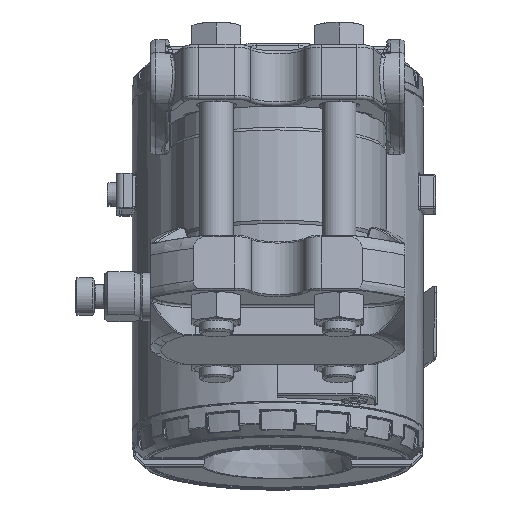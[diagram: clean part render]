
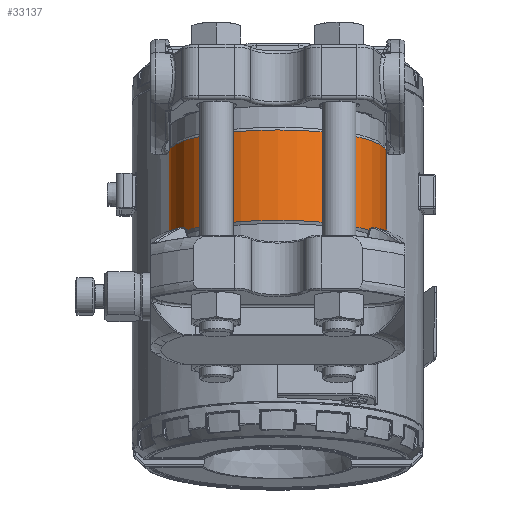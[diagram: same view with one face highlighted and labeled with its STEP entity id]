
A CAD part, left-side view. The second image highlights one B-rep face of the part: STEP entity #33137.
In plain terms, the highlighted cylindrical face has radius 31 mm (diameter 62 mm), a full revolution.
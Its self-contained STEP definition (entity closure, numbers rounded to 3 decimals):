
#523=B_SPLINE_CURVE_WITH_KNOTS('',3,(#51048,#51049,#51050,#51051,#51052,
#51053),.UNSPECIFIED.,.F.,.F.,(4,1,1,4),(0.,0.548,0.913,
1.279),.UNSPECIFIED.);
#524=B_SPLINE_CURVE_WITH_KNOTS('',3,(#51097,#51098,#51099,#51100,#51101,
#51102,#51103),.UNSPECIFIED.,.F.,.F.,(4,1,1,1,4),(0.,0.274,
0.548,0.913,1.279),.UNSPECIFIED.);
#525=B_SPLINE_CURVE_WITH_KNOTS('',3,(#51140,#51141,#51142,#51143,#51144,
#51145),.UNSPECIFIED.,.F.,.F.,(4,1,1,4),(0.,0.548,0.913,
1.279),.UNSPECIFIED.);
#526=B_SPLINE_CURVE_WITH_KNOTS('',3,(#51187,#51188,#51189,#51190,#51191,
#51192,#51193),.UNSPECIFIED.,.F.,.F.,(4,1,1,1,4),(0.,
0.274,0.548,0.913,1.279),
 .UNSPECIFIED.);
#3253=CYLINDRICAL_SURFACE('',#35922,31.);
#3829=FACE_OUTER_BOUND('',#6063,.T.);
#6063=EDGE_LOOP('',(#22276,#22277,#22278,#22279,#22280,#22281,#22282,#22283,
#22284,#22285,#22286,#22287,#22288,#22289,#22290,#22291,#22292,#22293));
#8372=LINE('',#51015,#9616);
#8373=LINE('',#51107,#9617);
#8374=LINE('',#51195,#9618);
#8375=LINE('',#51196,#9619);
#9616=VECTOR('',#40580,10.);
#9617=VECTOR('',#40597,10.);
#9618=VECTOR('',#40610,31.);
#9619=VECTOR('',#40611,31.);
#10819=CIRCLE('',#35776,31.);
#10820=CIRCLE('',#35777,31.);
#10825=CIRCLE('',#35784,31.);
#10826=CIRCLE('',#35785,31.);
#10899=CIRCLE('',#35912,31.);
#10900=CIRCLE('',#35913,31.);
#10905=CIRCLE('',#35920,31.);
#10906=CIRCLE('',#35921,31.);
#13484=VERTEX_POINT('',#50499);
#13485=VERTEX_POINT('',#50500);
#13491=VERTEX_POINT('',#50516);
#13492=VERTEX_POINT('',#50518);
#13571=VERTEX_POINT('',#51011);
#13572=VERTEX_POINT('',#51013);
#13573=VERTEX_POINT('',#51046);
#13574=VERTEX_POINT('',#51055);
#13575=VERTEX_POINT('',#51057);
#13576=VERTEX_POINT('',#51095);
#13577=VERTEX_POINT('',#51105);
#13578=VERTEX_POINT('',#51138);
#13579=VERTEX_POINT('',#51147);
#13580=VERTEX_POINT('',#51149);
#16681=EDGE_CURVE('',#13484,#13485,#10819,.T.);
#16682=EDGE_CURVE('',#13485,#13484,#10820,.T.);
#16690=EDGE_CURVE('',#13492,#13491,#10825,.T.);
#16691=EDGE_CURVE('',#13491,#13492,#10826,.T.);
#16816=EDGE_CURVE('',#13572,#13571,#8372,.T.);
#16818=EDGE_CURVE('',#13573,#13572,#523,.T.);
#16820=EDGE_CURVE('',#13574,#13575,#10899,.T.);
#16821=EDGE_CURVE('',#13575,#13573,#10900,.T.);
#16823=EDGE_CURVE('',#13576,#13574,#524,.T.);
#16825=EDGE_CURVE('',#13577,#13576,#8373,.T.);
#16827=EDGE_CURVE('',#13578,#13577,#525,.T.);
#16829=EDGE_CURVE('',#13579,#13580,#10905,.T.);
#16830=EDGE_CURVE('',#13580,#13578,#10906,.T.);
#16831=EDGE_CURVE('',#13571,#13579,#526,.T.);
#16832=EDGE_CURVE('',#13492,#13580,#8374,.T.);
#16833=EDGE_CURVE('',#13575,#13484,#8375,.T.);
#22276=ORIENTED_EDGE('',*,*,#16690,.T.);
#22277=ORIENTED_EDGE('',*,*,#16691,.T.);
#22278=ORIENTED_EDGE('',*,*,#16832,.T.);
#22279=ORIENTED_EDGE('',*,*,#16829,.F.);
#22280=ORIENTED_EDGE('',*,*,#16831,.F.);
#22281=ORIENTED_EDGE('',*,*,#16816,.F.);
#22282=ORIENTED_EDGE('',*,*,#16818,.F.);
#22283=ORIENTED_EDGE('',*,*,#16821,.F.);
#22284=ORIENTED_EDGE('',*,*,#16833,.T.);
#22285=ORIENTED_EDGE('',*,*,#16681,.T.);
#22286=ORIENTED_EDGE('',*,*,#16682,.T.);
#22287=ORIENTED_EDGE('',*,*,#16833,.F.);
#22288=ORIENTED_EDGE('',*,*,#16820,.F.);
#22289=ORIENTED_EDGE('',*,*,#16823,.F.);
#22290=ORIENTED_EDGE('',*,*,#16825,.F.);
#22291=ORIENTED_EDGE('',*,*,#16827,.F.);
#22292=ORIENTED_EDGE('',*,*,#16830,.F.);
#22293=ORIENTED_EDGE('',*,*,#16832,.F.);
#33137=ADVANCED_FACE('',(#3829),#3253,.T.);
#35776=AXIS2_PLACEMENT_3D('',#50501,#40273,#40274);
#35777=AXIS2_PLACEMENT_3D('',#50502,#40275,#40276);
#35784=AXIS2_PLACEMENT_3D('',#50519,#40292,#40293);
#35785=AXIS2_PLACEMENT_3D('',#50520,#40294,#40295);
#35912=AXIS2_PLACEMENT_3D('',#51058,#40587,#40588);
#35913=AXIS2_PLACEMENT_3D('',#51059,#40589,#40590);
#35920=AXIS2_PLACEMENT_3D('',#51150,#40604,#40605);
#35921=AXIS2_PLACEMENT_3D('',#51151,#40606,#40607);
#35922=AXIS2_PLACEMENT_3D('',#51194,#40608,#40609);
#40273=DIRECTION('center_axis',(0.,0.,1.));
#40274=DIRECTION('ref_axis',(-1.,0.,0.));
#40275=DIRECTION('center_axis',(0.,0.,1.));
#40276=DIRECTION('ref_axis',(-1.,0.,0.));
#40292=DIRECTION('center_axis',(0.,0.,-1.));
#40293=DIRECTION('ref_axis',(-1.,0.,0.));
#40294=DIRECTION('center_axis',(0.,0.,-1.));
#40295=DIRECTION('ref_axis',(-1.,0.,0.));
#40580=DIRECTION('',(0.,0.,1.));
#40587=DIRECTION('center_axis',(0.,0.,1.));
#40588=DIRECTION('ref_axis',(1.,0.,0.));
#40589=DIRECTION('center_axis',(0.,0.,1.));
#40590=DIRECTION('ref_axis',(1.,0.,0.));
#40597=DIRECTION('',(0.,0.,-1.));
#40604=DIRECTION('center_axis',(0.,0.,-1.));
#40605=DIRECTION('ref_axis',(1.,0.,0.));
#40606=DIRECTION('center_axis',(0.,0.,-1.));
#40607=DIRECTION('ref_axis',(1.,0.,0.));
#40608=DIRECTION('center_axis',(0.,0.,1.));
#40609=DIRECTION('ref_axis',(-1.,0.,0.));
#40610=DIRECTION('',(0.,0.,-1.));
#40611=DIRECTION('',(0.,0.,-1.));
#50499=CARTESIAN_POINT('',(31.,0.,-13.134));
#50500=CARTESIAN_POINT('',(-31.,0.,-13.134));
#50501=CARTESIAN_POINT('Origin',(0.,0.,-13.134));
#50502=CARTESIAN_POINT('Origin',(0.,0.,-13.134));
#50516=CARTESIAN_POINT('',(-31.,0.,13.134));
#50518=CARTESIAN_POINT('',(31.,0.,13.134));
#50519=CARTESIAN_POINT('Origin',(0.,0.,13.134));
#50520=CARTESIAN_POINT('Origin',(0.,0.,13.134));
#51011=CARTESIAN_POINT('',(28.645,11.853,5.));
#51013=CARTESIAN_POINT('',(28.645,11.853,-5.));
#51015=CARTESIAN_POINT('',(28.645,11.853,0.));
#51046=CARTESIAN_POINT('',(30.663,4.559,-13.));
#51048=CARTESIAN_POINT('Ctrl Pts',(30.663,4.559,-13.));
#51049=CARTESIAN_POINT('Ctrl Pts',(30.418,6.206,-13.));
#51050=CARTESIAN_POINT('Ctrl Pts',(29.764,8.89,-11.953));
#51051=CARTESIAN_POINT('Ctrl Pts',(28.867,11.328,-8.643));
#51052=CARTESIAN_POINT('Ctrl Pts',(28.645,11.853,-6.218));
#51053=CARTESIAN_POINT('Ctrl Pts',(28.645,11.853,-5.));
#51055=CARTESIAN_POINT('',(30.663,-4.559,-13.));
#51057=CARTESIAN_POINT('',(31.,0.,-13.));
#51058=CARTESIAN_POINT('Origin',(0.,0.,-13.));
#51059=CARTESIAN_POINT('Origin',(0.,0.,-13.));
#51095=CARTESIAN_POINT('',(28.645,-11.853,-5.));
#51097=CARTESIAN_POINT('Ctrl Pts',(28.645,-11.853,-5.));
#51098=CARTESIAN_POINT('Ctrl Pts',(28.645,-11.853,-5.913));
#51099=CARTESIAN_POINT('Ctrl Pts',(28.767,-11.563,-7.738));
#51100=CARTESIAN_POINT('Ctrl Pts',(29.292,-10.206,-10.383));
#51101=CARTESIAN_POINT('Ctrl Pts',(30.048,-7.829,-12.448));
#51102=CARTESIAN_POINT('Ctrl Pts',(30.5,-5.657,-13.));
#51103=CARTESIAN_POINT('Ctrl Pts',(30.663,-4.559,-13.));
#51105=CARTESIAN_POINT('',(28.645,-11.853,5.));
#51107=CARTESIAN_POINT('',(28.645,-11.853,0.));
#51138=CARTESIAN_POINT('',(30.663,-4.559,13.));
#51140=CARTESIAN_POINT('Ctrl Pts',(30.663,-4.559,13.));
#51141=CARTESIAN_POINT('Ctrl Pts',(30.418,-6.206,13.));
#51142=CARTESIAN_POINT('Ctrl Pts',(29.764,-8.89,11.953));
#51143=CARTESIAN_POINT('Ctrl Pts',(28.867,-11.328,8.643));
#51144=CARTESIAN_POINT('Ctrl Pts',(28.645,-11.853,6.218));
#51145=CARTESIAN_POINT('Ctrl Pts',(28.645,-11.853,5.));
#51147=CARTESIAN_POINT('',(30.663,4.559,13.));
#51149=CARTESIAN_POINT('',(31.,0.,13.));
#51150=CARTESIAN_POINT('Origin',(0.,0.,13.));
#51151=CARTESIAN_POINT('Origin',(0.,0.,13.));
#51187=CARTESIAN_POINT('Ctrl Pts',(28.645,11.853,5.));
#51188=CARTESIAN_POINT('Ctrl Pts',(28.645,11.853,5.913));
#51189=CARTESIAN_POINT('Ctrl Pts',(28.767,11.563,7.738));
#51190=CARTESIAN_POINT('Ctrl Pts',(29.292,10.206,10.383));
#51191=CARTESIAN_POINT('Ctrl Pts',(30.048,7.829,12.448));
#51192=CARTESIAN_POINT('Ctrl Pts',(30.5,5.657,13.));
#51193=CARTESIAN_POINT('Ctrl Pts',(30.663,4.559,13.));
#51194=CARTESIAN_POINT('Origin',(0.,0.,0.));
#51195=CARTESIAN_POINT('',(31.,0.,0.));
#51196=CARTESIAN_POINT('',(31.,0.,0.));
